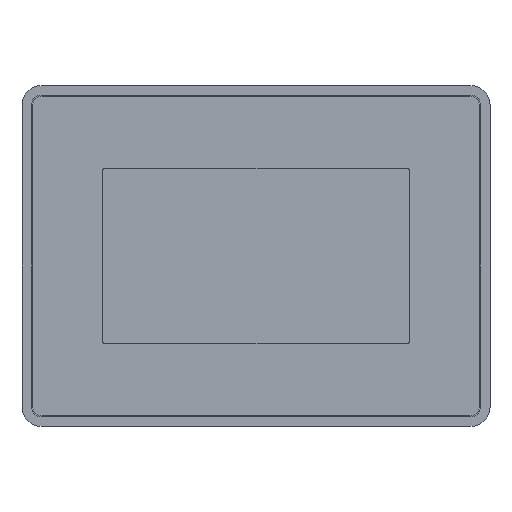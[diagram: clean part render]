
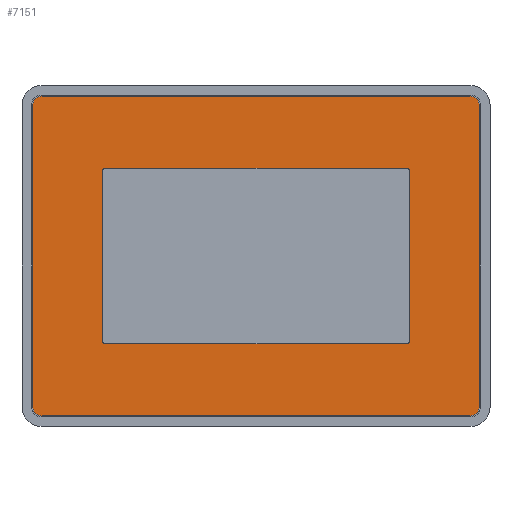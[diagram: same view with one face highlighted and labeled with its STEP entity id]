
A CAD part, top view. The second image highlights one B-rep face of the part: STEP entity #7151.
In plain terms, the highlighted planar face has unit normal (0, 0, 1).
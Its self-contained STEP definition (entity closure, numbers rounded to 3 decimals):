
#584 = CARTESIAN_POINT ( 'NONE',  ( 48.22, 26.63, 5.05 ) ) ;
#1030 = DIRECTION ( 'NONE',  ( 0., 0., -1. ) ) ;
#1387 = CIRCLE ( 'NONE', #6022, 3. ) ;
#1667 = EDGE_CURVE ( 'NONE', #13330, #3894, #13630, .T. ) ;
#1687 = CARTESIAN_POINT ( 'NONE',  ( -47.22, -26.63, 5.05 ) ) ;
#1823 = EDGE_CURVE ( 'NONE', #25025, #3053, #20582, .T. ) ;
#2271 = VERTEX_POINT ( 'NONE', #26245 ) ;
#2316 = DIRECTION ( 'NONE',  ( 0., -1., 0. ) ) ;
#2547 = LINE ( 'NONE', #18708, #15640 ) ;
#2784 = DIRECTION ( 'NONE',  ( 0., 1., 0. ) ) ;
#3032 = CARTESIAN_POINT ( 'NONE',  ( 70.2, 47.2, 5.05 ) ) ;
#3053 = VERTEX_POINT ( 'NONE', #25144 ) ;
#3213 = ORIENTED_EDGE ( 'NONE', *, *, #13787, .F. ) ;
#3324 = AXIS2_PLACEMENT_3D ( 'NONE', #18422, #3653, #20932 ) ;
#3351 = LINE ( 'NONE', #26874, #16485 ) ;
#3401 = LINE ( 'NONE', #12882, #22371 ) ;
#3437 = DIRECTION ( 'NONE',  ( 1., 0., 0. ) ) ;
#3653 = DIRECTION ( 'NONE',  ( 0., 0., -1. ) ) ;
#3665 = CARTESIAN_POINT ( 'NONE',  ( 48.22, -26.63, 5.05 ) ) ;
#3894 = VERTEX_POINT ( 'NONE', #5551 ) ;
#3945 = CARTESIAN_POINT ( 'NONE',  ( -67.2, -50.2, 5.05 ) ) ;
#4096 = CARTESIAN_POINT ( 'NONE',  ( 67.2, -47.2, 5.05 ) ) ;
#4164 = DIRECTION ( 'NONE',  ( 0., -1., 0. ) ) ;
#4322 = DIRECTION ( 'NONE',  ( 0., 1., 0. ) ) ;
#4365 = PLANE ( 'NONE',  #9203 ) ;
#4380 = FACE_BOUND ( 'NONE', #10381, .T. ) ;
#4448 = EDGE_CURVE ( 'NONE', #23230, #25025, #10307, .T. ) ;
#4913 = CARTESIAN_POINT ( 'NONE',  ( 70.2, 47.2, 5.05 ) ) ;
#5042 = CARTESIAN_POINT ( 'NONE',  ( -47.22, 26.63, 5.05 ) ) ;
#5093 = DIRECTION ( 'NONE',  ( 1., 0., 0. ) ) ;
#5132 = CARTESIAN_POINT ( 'NONE',  ( -67.2, 47.2, 5.05 ) ) ;
#5135 = CARTESIAN_POINT ( 'NONE',  ( 47.22, 27.63, 5.05 ) ) ;
#5430 = ORIENTED_EDGE ( 'NONE', *, *, #11900, .F. ) ;
#5551 = CARTESIAN_POINT ( 'NONE',  ( 67.2, 50.2, 5.05 ) ) ;
#5912 = FACE_OUTER_BOUND ( 'NONE', #30251, .T. ) ;
#6022 = AXIS2_PLACEMENT_3D ( 'NONE', #15813, #1030, #18291 ) ;
#6114 = ORIENTED_EDGE ( 'NONE', *, *, #19840, .F. ) ;
#6155 = AXIS2_PLACEMENT_3D ( 'NONE', #31920, #17092, #2316 ) ;
#6418 = DIRECTION ( 'NONE',  ( -1., 0., 0. ) ) ;
#6555 = ORIENTED_EDGE ( 'NONE', *, *, #30333, .F. ) ;
#6643 = LINE ( 'NONE', #15572, #18971 ) ;
#6862 = DIRECTION ( 'NONE',  ( 0., 1., 0. ) ) ;
#7151 = ADVANCED_FACE ( 'NONE', ( #4380, #5912 ), #4365, .F. ) ;
#7303 = LINE ( 'NONE', #20076, #8061 ) ;
#7558 = DIRECTION ( 'NONE',  ( 0., -1., 0. ) ) ;
#7630 = DIRECTION ( 'NONE',  ( 0., 1., 0. ) ) ;
#8061 = VECTOR ( 'NONE', #2784, 1000. ) ;
#8239 = VERTEX_POINT ( 'NONE', #9990 ) ;
#8364 = ORIENTED_EDGE ( 'NONE', *, *, #28343, .F. ) ;
#8466 = VERTEX_POINT ( 'NONE', #18569 ) ;
#9203 = AXIS2_PLACEMENT_3D ( 'NONE', #11677, #21644, #6862 ) ;
#9459 = CARTESIAN_POINT ( 'NONE',  ( 70.2, -47.2, 5.05 ) ) ;
#9990 = CARTESIAN_POINT ( 'NONE',  ( -47.22, -27.63, 5.05 ) ) ;
#10260 = ORIENTED_EDGE ( 'NONE', *, *, #1823, .F. ) ;
#10307 = LINE ( 'NONE', #4913, #16075 ) ;
#10381 = EDGE_LOOP ( 'NONE', ( #8364, #6555, #21020, #17154, #16624, #6114, #14931, #5430 ) ) ;
#10701 = AXIS2_PLACEMENT_3D ( 'NONE', #28444, #13646, #30940 ) ;
#11366 = ORIENTED_EDGE ( 'NONE', *, *, #1667, .F. ) ;
#11677 = CARTESIAN_POINT ( 'NONE',  ( 67.2, 47.2, 5.05 ) ) ;
#11770 = EDGE_CURVE ( 'NONE', #20639, #28652, #29449, .T. ) ;
#11900 = EDGE_CURVE ( 'NONE', #24079, #27272, #6643, .T. ) ;
#12059 = DIRECTION ( 'NONE',  ( 0., 1., 0. ) ) ;
#12882 = CARTESIAN_POINT ( 'NONE',  ( 67.2, 27.63, 5.05 ) ) ;
#12923 = ORIENTED_EDGE ( 'NONE', *, *, #18607, .F. ) ;
#13330 = VERTEX_POINT ( 'NONE', #25470 ) ;
#13630 = LINE ( 'NONE', #30565, #18645 ) ;
#13646 = DIRECTION ( 'NONE',  ( 0., 0., 1. ) ) ;
#13787 = EDGE_CURVE ( 'NONE', #8466, #25165, #7303, .T. ) ;
#14751 = EDGE_CURVE ( 'NONE', #25165, #13330, #19590, .T. ) ;
#14931 = ORIENTED_EDGE ( 'NONE', *, *, #23863, .F. ) ;
#14937 = DIRECTION ( 'NONE',  ( 0., 0., -1. ) ) ;
#15056 = AXIS2_PLACEMENT_3D ( 'NONE', #5132, #22418, #7630 ) ;
#15068 = CIRCLE ( 'NONE', #27374, 1. ) ;
#15353 = DIRECTION ( 'NONE',  ( -1., 0., 0. ) ) ;
#15369 = EDGE_CURVE ( 'NONE', #3053, #27066, #2547, .T. ) ;
#15572 = CARTESIAN_POINT ( 'NONE',  ( -48.22, 47.2, 5.05 ) ) ;
#15640 = VECTOR ( 'NONE', #6418, 1000. ) ;
#15813 = CARTESIAN_POINT ( 'NONE',  ( 67.2, 47.2, 5.05 ) ) ;
#15991 = VECTOR ( 'NONE', #5093, 1000. ) ;
#16075 = VECTOR ( 'NONE', #29322, 1000. ) ;
#16485 = VECTOR ( 'NONE', #12059, 1000. ) ;
#16624 = ORIENTED_EDGE ( 'NONE', *, *, #22284, .F. ) ;
#17092 = DIRECTION ( 'NONE',  ( 0., 0., 1. ) ) ;
#17154 = ORIENTED_EDGE ( 'NONE', *, *, #31959, .F. ) ;
#17239 = CIRCLE ( 'NONE', #3324, 3. ) ;
#17941 = CARTESIAN_POINT ( 'NONE',  ( -70.2, 47.2, 5.05 ) ) ;
#18046 = DIRECTION ( 'NONE',  ( 0., -1., 0. ) ) ;
#18291 = DIRECTION ( 'NONE',  ( 0., 1., 0. ) ) ;
#18422 = CARTESIAN_POINT ( 'NONE',  ( -67.2, -47.2, 5.05 ) ) ;
#18569 = CARTESIAN_POINT ( 'NONE',  ( -70.2, -47.2, 5.05 ) ) ;
#18600 = ORIENTED_EDGE ( 'NONE', *, *, #15369, .F. ) ;
#18607 = EDGE_CURVE ( 'NONE', #27066, #8466, #17239, .T. ) ;
#18645 = VECTOR ( 'NONE', #3437, 1000. ) ;
#18708 = CARTESIAN_POINT ( 'NONE',  ( 67.2, -50.2, 5.05 ) ) ;
#18939 = DIRECTION ( 'NONE',  ( 0., 0., 1. ) ) ;
#18958 = EDGE_CURVE ( 'NONE', #3894, #23230, #1387, .T. ) ;
#18971 = VECTOR ( 'NONE', #18046, 1000. ) ;
#19590 = CIRCLE ( 'NONE', #15056, 3. ) ;
#19840 = EDGE_CURVE ( 'NONE', #8239, #2271, #22601, .T. ) ;
#19870 = AXIS2_PLACEMENT_3D ( 'NONE', #1687, #18939, #4164 ) ;
#20076 = CARTESIAN_POINT ( 'NONE',  ( -70.2, 47.2, 5.05 ) ) ;
#20582 = CIRCLE ( 'NONE', #22198, 3. ) ;
#20639 = VERTEX_POINT ( 'NONE', #584 ) ;
#20881 = CIRCLE ( 'NONE', #10701, 1. ) ;
#20932 = DIRECTION ( 'NONE',  ( 0., 1., 0. ) ) ;
#21020 = ORIENTED_EDGE ( 'NONE', *, *, #11770, .F. ) ;
#21644 = DIRECTION ( 'NONE',  ( 0., 0., -1. ) ) ;
#21916 = CIRCLE ( 'NONE', #19870, 1. ) ;
#22198 = AXIS2_PLACEMENT_3D ( 'NONE', #4096, #14937, #4322 ) ;
#22284 = EDGE_CURVE ( 'NONE', #2271, #24634, #20881, .T. ) ;
#22336 = DIRECTION ( 'NONE',  ( 0., 0., 1. ) ) ;
#22371 = VECTOR ( 'NONE', #15353, 1000. ) ;
#22418 = DIRECTION ( 'NONE',  ( 0., 0., -1. ) ) ;
#22601 = LINE ( 'NONE', #27223, #15991 ) ;
#23230 = VERTEX_POINT ( 'NONE', #3032 ) ;
#23625 = VERTEX_POINT ( 'NONE', #30123 ) ;
#23863 = EDGE_CURVE ( 'NONE', #27272, #8239, #21916, .T. ) ;
#24079 = VERTEX_POINT ( 'NONE', #30201 ) ;
#24634 = VERTEX_POINT ( 'NONE', #3665 ) ;
#24686 = ORIENTED_EDGE ( 'NONE', *, *, #4448, .F. ) ;
#25025 = VERTEX_POINT ( 'NONE', #9459 ) ;
#25144 = CARTESIAN_POINT ( 'NONE',  ( 67.2, -50.2, 5.05 ) ) ;
#25165 = VERTEX_POINT ( 'NONE', #17941 ) ;
#25470 = CARTESIAN_POINT ( 'NONE',  ( -67.2, 50.2, 5.05 ) ) ;
#26245 = CARTESIAN_POINT ( 'NONE',  ( 47.22, -27.63, 5.05 ) ) ;
#26874 = CARTESIAN_POINT ( 'NONE',  ( 48.22, 47.2, 5.05 ) ) ;
#26949 = CARTESIAN_POINT ( 'NONE',  ( -48.22, -26.63, 5.05 ) ) ;
#27066 = VERTEX_POINT ( 'NONE', #3945 ) ;
#27223 = CARTESIAN_POINT ( 'NONE',  ( 67.2, -27.63, 5.05 ) ) ;
#27272 = VERTEX_POINT ( 'NONE', #26949 ) ;
#27374 = AXIS2_PLACEMENT_3D ( 'NONE', #5042, #22336, #7558 ) ;
#27940 = ORIENTED_EDGE ( 'NONE', *, *, #18958, .F. ) ;
#28343 = EDGE_CURVE ( 'NONE', #23625, #24079, #15068, .T. ) ;
#28444 = CARTESIAN_POINT ( 'NONE',  ( 47.22, -26.63, 5.05 ) ) ;
#28652 = VERTEX_POINT ( 'NONE', #5135 ) ;
#29322 = DIRECTION ( 'NONE',  ( 0., -1., 0. ) ) ;
#29449 = CIRCLE ( 'NONE', #6155, 1. ) ;
#30123 = CARTESIAN_POINT ( 'NONE',  ( -47.22, 27.63, 5.05 ) ) ;
#30201 = CARTESIAN_POINT ( 'NONE',  ( -48.22, 26.63, 5.05 ) ) ;
#30251 = EDGE_LOOP ( 'NONE', ( #11366, #31201, #3213, #12923, #18600, #10260, #24686, #27940 ) ) ;
#30333 = EDGE_CURVE ( 'NONE', #28652, #23625, #3401, .T. ) ;
#30565 = CARTESIAN_POINT ( 'NONE',  ( 67.2, 50.2, 5.05 ) ) ;
#30940 = DIRECTION ( 'NONE',  ( 0., -1., 0. ) ) ;
#31201 = ORIENTED_EDGE ( 'NONE', *, *, #14751, .F. ) ;
#31920 = CARTESIAN_POINT ( 'NONE',  ( 47.22, 26.63, 5.05 ) ) ;
#31959 = EDGE_CURVE ( 'NONE', #24634, #20639, #3351, .T. ) ;
